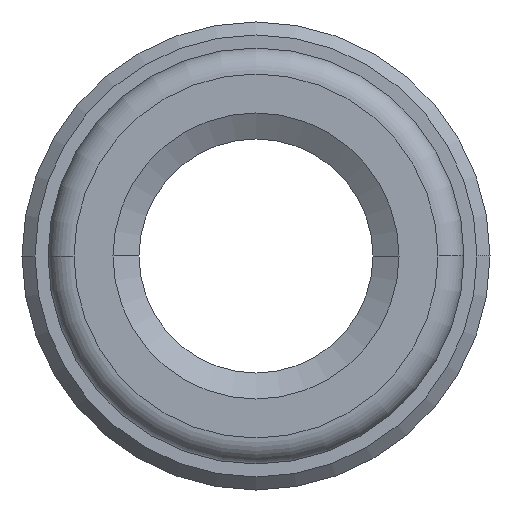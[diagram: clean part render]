
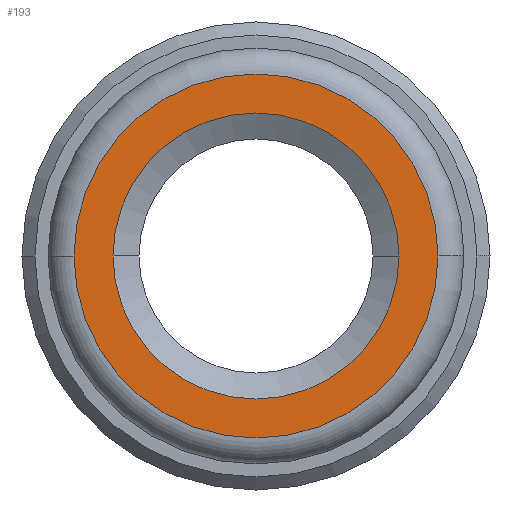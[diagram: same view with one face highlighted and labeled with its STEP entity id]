
A CAD part, front view. The second image highlights one B-rep face of the part: STEP entity #193.
In plain terms, the highlighted planar face has unit normal (0, -1, 0).
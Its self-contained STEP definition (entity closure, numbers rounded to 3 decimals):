
#29 = DIRECTION ( 'NONE',  ( 1., 0., 0. ) ) ;
#39 = CARTESIAN_POINT ( 'NONE',  ( -3.5, 0., 0. ) ) ;
#51 = DIRECTION ( 'NONE',  ( 0., -1., 0. ) ) ;
#89 = CIRCLE ( 'NONE', #490, 2.75 ) ;
#102 = VERTEX_POINT ( 'NONE', #915 ) ;
#123 = EDGE_LOOP ( 'NONE', ( #219, #230 ) ) ;
#125 = DIRECTION ( 'NONE',  ( -1., 0., 0. ) ) ;
#142 = EDGE_CURVE ( 'NONE', #102, #1009, #205, .T. ) ;
#193 = ADVANCED_FACE ( 'NONE', ( #1077, #657 ), #815, .F. ) ;
#205 = CIRCLE ( 'NONE', #993, 2.75 ) ;
#219 = ORIENTED_EDGE ( 'NONE', *, *, #142, .F. ) ;
#230 = ORIENTED_EDGE ( 'NONE', *, *, #531, .F. ) ;
#294 = DIRECTION ( 'NONE',  ( 0., -1., 0. ) ) ;
#312 = CARTESIAN_POINT ( 'NONE',  ( 0., 0., 0. ) ) ;
#397 = CARTESIAN_POINT ( 'NONE',  ( 0., 0., 0. ) ) ;
#405 = ORIENTED_EDGE ( 'NONE', *, *, #621, .T. ) ;
#460 = ORIENTED_EDGE ( 'NONE', *, *, #633, .T. ) ;
#461 = AXIS2_PLACEMENT_3D ( 'NONE', #397, #294, #125 ) ;
#490 = AXIS2_PLACEMENT_3D ( 'NONE', #1003, #1006, #1019 ) ;
#519 = DIRECTION ( 'NONE',  ( 0., -1., 0. ) ) ;
#531 = EDGE_CURVE ( 'NONE', #1009, #102, #89, .T. ) ;
#599 = CARTESIAN_POINT ( 'NONE',  ( 3.5, 0., 0. ) ) ;
#621 = EDGE_CURVE ( 'NONE', #1080, #1173, #1024, .T. ) ;
#633 = EDGE_CURVE ( 'NONE', #1173, #1080, #1016, .T. ) ;
#657 = FACE_OUTER_BOUND ( 'NONE', #755, .T. ) ;
#735 = AXIS2_PLACEMENT_3D ( 'NONE', #868, #51, #1156 ) ;
#755 = EDGE_LOOP ( 'NONE', ( #460, #405 ) ) ;
#815 = PLANE ( 'NONE',  #844 ) ;
#844 = AXIS2_PLACEMENT_3D ( 'NONE', #861, #983, #869 ) ;
#861 = CARTESIAN_POINT ( 'NONE',  ( -4., 0., 0. ) ) ;
#868 = CARTESIAN_POINT ( 'NONE',  ( 0., 0., 0. ) ) ;
#869 = DIRECTION ( 'NONE',  ( -1., 0., 0. ) ) ;
#915 = CARTESIAN_POINT ( 'NONE',  ( 2.75, 0., 0. ) ) ;
#983 = DIRECTION ( 'NONE',  ( 0., 1., 0. ) ) ;
#993 = AXIS2_PLACEMENT_3D ( 'NONE', #312, #519, #29 ) ;
#1003 = CARTESIAN_POINT ( 'NONE',  ( 0., 0., 0. ) ) ;
#1006 = DIRECTION ( 'NONE',  ( 0., -1., 0. ) ) ;
#1009 = VERTEX_POINT ( 'NONE', #1046 ) ;
#1016 = CIRCLE ( 'NONE', #461, 3.5 ) ;
#1019 = DIRECTION ( 'NONE',  ( 1., 0., 0. ) ) ;
#1024 = CIRCLE ( 'NONE', #735, 3.5 ) ;
#1046 = CARTESIAN_POINT ( 'NONE',  ( -2.75, 0., 0. ) ) ;
#1077 = FACE_BOUND ( 'NONE', #123, .T. ) ;
#1080 = VERTEX_POINT ( 'NONE', #599 ) ;
#1156 = DIRECTION ( 'NONE',  ( -1., 0., 0. ) ) ;
#1173 = VERTEX_POINT ( 'NONE', #39 ) ;
